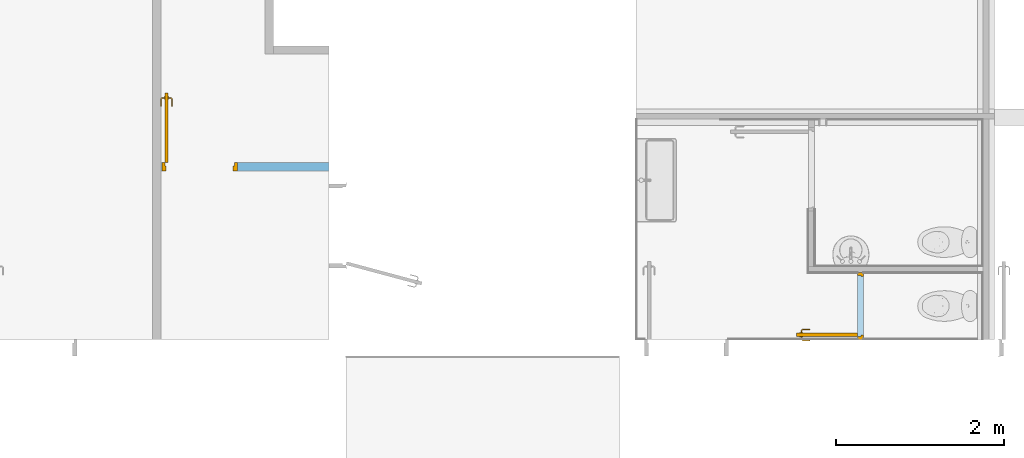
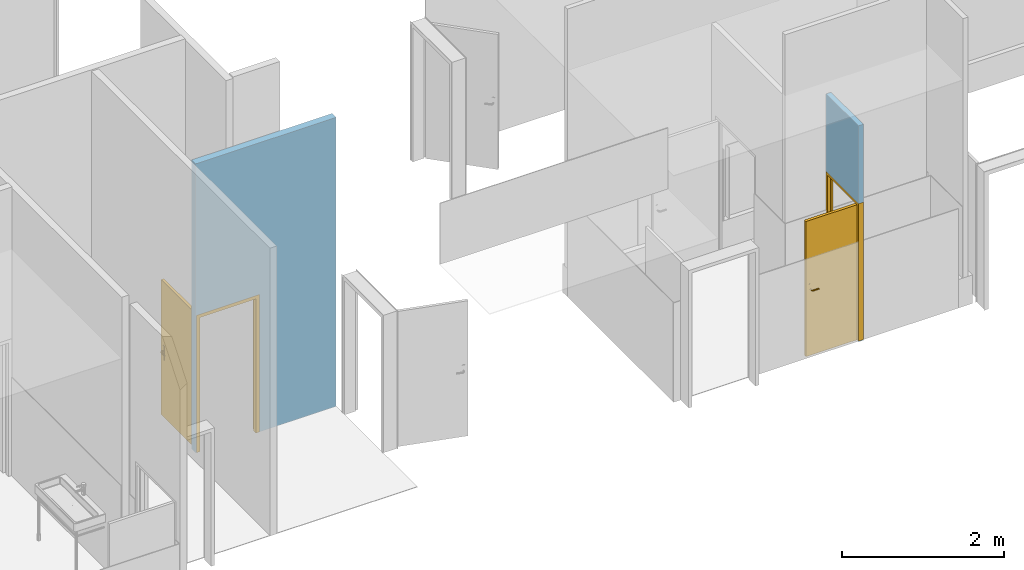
# One storey, part 9 of 18: 2 doors, 2 openings, plus 2 elements that do not belong to this part.
"""IFC2X3 building model written with IfcOpenShell, lengths in metres."""

from ifc_helpers import new_model, entity, si_unit, converted_unit, derived_unit, direction, frame, frame_2d, origin, place, context, subcontext, project, spatial, rectangle, extrude, faceted_brep, source, transform, mapped, material, material_list, layer, layer_set, layer_usage, type_object, type_shapes, element, fill, save


model = new_model("IFC2X3")

# Units and contexts
model_context = context("Model", 3, precision=1e-05, world=origin(), true_north=direction((6.12303176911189e-17, 1.0)))
body_context = subcontext(model_context, "Body", "Model", "MODEL_VIEW")
ifc_project = project(units=[si_unit("LENGTHUNIT", "METRE"), si_unit("AREAUNIT", "SQUARE_METRE"), si_unit("VOLUMEUNIT", "CUBIC_METRE"), converted_unit("PLANEANGLEUNIT", "DEGREE", entity("IfcRatioMeasure", 0.0174532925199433), si_unit("PLANEANGLEUNIT", "RADIAN"), dimensions=[0, 0, 0, 0, 0, 0, 0]), si_unit("MASSUNIT", "GRAM", prefix="KILO"), derived_unit("MASSDENSITYUNIT", [(si_unit("MASSUNIT", "GRAM", prefix="KILO"), 1), (si_unit("LENGTHUNIT", "METRE"), -3)]), si_unit("TIMEUNIT", "SECOND"), si_unit("FREQUENCYUNIT", "HERTZ"), si_unit("THERMODYNAMICTEMPERATUREUNIT", "DEGREE_CELSIUS"), derived_unit("THERMALTRANSMITTANCEUNIT", [(si_unit("MASSUNIT", "GRAM", prefix="KILO"), 1), (si_unit("THERMODYNAMICTEMPERATUREUNIT", "KELVIN"), -1), (si_unit("TIMEUNIT", "SECOND"), -3)]), derived_unit("VOLUMETRICFLOWRATEUNIT", [(si_unit("LENGTHUNIT", "METRE"), 3), (si_unit("TIMEUNIT", "SECOND"), -1)]), si_unit("ELECTRICCURRENTUNIT", "AMPERE"), si_unit("ELECTRICVOLTAGEUNIT", "VOLT"), si_unit("POWERUNIT", "WATT"), si_unit("FORCEUNIT", "NEWTON", prefix="KILO"), si_unit("ILLUMINANCEUNIT", "LUX"), si_unit("LUMINOUSFLUXUNIT", "LUMEN"), si_unit("LUMINOUSINTENSITYUNIT", "CANDELA"), derived_unit("USERDEFINED", [(si_unit("MASSUNIT", "GRAM", prefix="KILO"), -1), (si_unit("LENGTHUNIT", "METRE"), -2), (si_unit("TIMEUNIT", "SECOND"), 3), (si_unit("LUMINOUSFLUXUNIT", "LUMEN"), 1)]), derived_unit("LINEARVELOCITYUNIT", [(si_unit("LENGTHUNIT", "METRE"), 1), (si_unit("TIMEUNIT", "SECOND"), -1)]), si_unit("PRESSUREUNIT", "PASCAL"), derived_unit("USERDEFINED", [(si_unit("LENGTHUNIT", "METRE"), -2), (si_unit("MASSUNIT", "GRAM", prefix="KILO"), 1), (si_unit("TIMEUNIT", "SECOND"), -2)])], contexts=[model_context])

# Site, building, storey
site_placement = place(None, origin())
site = spatial("IfcSite", under=ifc_project, at=site_placement, Name="Surface", CompositionType="ELEMENT")
building_placement = place(site_placement, origin())
building = spatial("IfcBuilding", under=site, at=building_placement, Name="ExPREF", CompositionType="ELEMENT")
storey_placement = place(building_placement, frame((0.0, 0.0, -4.62)))
storey = spatial("IfcBuildingStorey", under=building, at=storey_placement, Name="R-1", CompositionType="ELEMENT", Elevation=-4.62)

# Wall, opening, door
ifc_material_1 = material(Name="AA-fermacell peint")
ifc_layer_1 = layer(ifc_material_1, 0.0125)
ifc_material_2 = material(Name="AA-isolant plancher")
ifc_layer_2 = layer(ifc_material_2, 0.045)
ifc_layer_3 = layer(ifc_material_1, 0.0125)
ifc_layer_set_1 = layer_set([ifc_layer_1, ifc_layer_2, ifc_layer_3], Name="Mur de base:Générique - Int. 70 mm")
ifc_layer_usage_1 = layer_usage(ifc_layer_set_1, "AXIS2", "POSITIVE", -0.035)
wall_type_1 = type_object("IfcWallType", Name="Mur de base:Générique - Int. 70 mm", PredefinedType="STANDARD", material=ifc_layer_set_1)
wall_1_placement = place(storey_placement, frame((47.9947438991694, -192.459651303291, -0.00999999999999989), z_axis=(0.0, 0.0, 1.0), x_axis=(0.0, -1.0, 0.0)))
wall_1 = element("IfcWallStandardCase", 1, at=wall_1_placement, inside=storey, type_object=wall_type_1, material=ifc_layer_usage_1, Name="Mur de base:Générique - Int. 70 mm", ObjectType="Mur de base:Générique - Int. 70 mm", context=body_context, shape_type="SweptSolid", body=[
    extrude(rectangle(XDim=0.800000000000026, YDim=0.0700000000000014, at=frame_2d((0.400000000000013, 0.0), x_axis=(-1.0, 0.0))), origin(), (0.0, 0.0, 1.0), 3.25999999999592),
])
opening_1_placement = place(wall_1_placement, frame((0.800000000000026, 0.035, 0.00999999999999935)))
opening_1 = element("IfcOpeningElement", 2, at=opening_1_placement, cuts=wall_1, Name="Porte intérieur bois:PP (0.73m x 2.04m):1", ObjectType="Opening", context=body_context, shape_type="SweptSolid", body=[
    extrude(rectangle(XDim=2.075, YDim=0.799999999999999, at=frame_2d((1.0375, 0.400000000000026), x_axis=(1.0, 0.0))), frame((0.0, 0.0, 0.0), z_axis=(0.0, -1.0, 0.0), x_axis=(0.0, 0.0, 1.0)), (0.0, 0.0, 1.0), 0.07),
])
ifc_material_3 = material(Name="AA-Blanc satiné")
door_style_1 = type_object("IfcDoorStyle", Name="PP (0.73m x 2.04m)", ConstructionType="NOTDEFINED", OperationType="SINGLE_SWING_LEFT", ParameterTakesPrecedence=False, Sizeable=False, material=ifc_material_3)
shared_shape_1 = source(origin(), body_context, "Body", "Brep", [
    faceted_brep([(0.719999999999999, -0.672025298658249, 1.00778044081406), (0.719999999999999, -0.676000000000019, 1.007), (0.719999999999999, -0.676000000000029, 0.992999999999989), (0.719999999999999, -0.672025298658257, 0.99221955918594), (0.719999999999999, -0.667974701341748, 0.992219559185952), (0.719999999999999, -0.663999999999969, 0.993000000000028), (0.719999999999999, -0.66399999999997, 1.007), (0.719999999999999, -0.667974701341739, 1.00778044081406), (0.697514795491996, -0.663999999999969, 0.993000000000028), (0.697514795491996, -0.663999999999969, 1.007), (0.695868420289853, -0.667974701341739, 1.00778044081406), (0.682054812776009, -0.654161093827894, 1.00778044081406), (0.6780042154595, -0.655838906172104, 1.00778044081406), (0.694190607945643, -0.672025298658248, 1.00778044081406), (0.692544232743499, -0.676000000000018, 1.007), (0.692544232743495, -0.676000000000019, 0.992999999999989), (0.694190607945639, -0.672025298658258, 0.99221955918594), (0.678004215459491, -0.655838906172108, 0.99221955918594), (0.682054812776, -0.654161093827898, 0.992219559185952), (0.695868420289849, -0.667974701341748, 0.992219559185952), (0.686029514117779, -0.652514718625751, 0.993000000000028), (0.686029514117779, -0.65251471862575, 1.007), (0.67402951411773, -0.657485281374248, 1.007), (0.674029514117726, -0.657485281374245, 0.992999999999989), (0.686029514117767, -0.569954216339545, 0.993000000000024), (0.682054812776, -0.569954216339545, 0.992219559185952), (0.678004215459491, -0.569954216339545, 0.99221955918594), (0.674029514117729, -0.569954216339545, 0.992999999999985), (0.67402951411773, -0.569954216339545, 1.007), (0.678004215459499, -0.569954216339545, 1.00778044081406), (0.682054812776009, -0.569954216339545, 1.00778044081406), (0.686029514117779, -0.569954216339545, 1.007), (0.686029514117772, -0.611234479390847, 0.993000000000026), (0.686029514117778, -0.611234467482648, 1.007), (0.680029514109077, -0.612057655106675, 1.0078786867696), (0.67402951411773, -0.61755479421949, 1.007), (0.674029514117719, -0.6175547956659, 0.992999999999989), (0.680029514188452, -0.612057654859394, 0.992121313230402)], [[[0, 1, 2, 3, 4, 5, 6, 7]], [[6, 5, 8, 9]], [[9, 10, 7, 6]], [[10, 11, 12, 13, 0, 7]], [[13, 14, 1, 0]], [[2, 1, 14, 15]], [[15, 16, 3, 2]], [[16, 17, 18, 19, 4, 3]], [[19, 8, 5, 4]], [[9, 8, 20, 21]], [[21, 11, 10, 9]], [[12, 22, 14, 13]], [[15, 14, 22, 23]], [[23, 17, 16, 15]], [[18, 20, 8, 19]], [[24, 25, 26, 27, 28, 29, 30, 31]], [[21, 20, 32, 24, 31, 33]], [[33, 30, 34]], [[35, 34, 29]], [[21, 33, 11]], [[33, 31, 30]], [[28, 35, 29]], [[22, 12, 35]], [[35, 12, 34]], [[12, 11, 34]], [[11, 33, 34]], [[29, 34, 30]], [[22, 35, 28, 27, 36, 23]], [[36, 26, 37]], [[27, 26, 36]], [[17, 23, 36]], [[37, 32, 18]], [[20, 18, 32]], [[32, 25, 24]], [[26, 25, 37]], [[25, 32, 37]], [[17, 36, 37]], [[17, 37, 18]]]),
    faceted_brep([(0.769999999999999, -0.672025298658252, 1.00778044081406), (0.769999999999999, -0.667974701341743, 1.00778044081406), (0.769999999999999, -0.663999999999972, 1.00699999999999), (0.769999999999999, -0.663999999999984, 0.993000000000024), (0.769999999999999, -0.667974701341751, 0.992219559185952), (0.769999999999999, -0.67202529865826, 0.99221955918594), (0.769999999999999, -0.676000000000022, 0.992999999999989), (0.769999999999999, -0.676000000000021, 1.007), (0.797650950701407, -0.676000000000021, 1.007), (0.796004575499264, -0.672025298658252, 1.00778044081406), (0.812053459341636, -0.655976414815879, 1.00778044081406), (0.808002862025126, -0.654298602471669, 1.00778044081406), (0.794326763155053, -0.667974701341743, 1.00778044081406), (0.792680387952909, -0.663999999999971, 1.007), (0.792680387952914, -0.663999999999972, 0.993000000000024), (0.794326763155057, -0.667974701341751, 0.992219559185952), (0.808002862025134, -0.654298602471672, 0.992219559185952), (0.812053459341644, -0.655976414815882, 0.99221955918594), (0.796004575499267, -0.67202529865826, 0.99221955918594), (0.797650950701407, -0.676000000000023, 0.992999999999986), (0.816028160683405, -0.657622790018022, 1.007), (0.804028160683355, -0.652652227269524, 1.007), (0.804028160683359, -0.652652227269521, 0.993000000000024), (0.816028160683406, -0.657622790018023, 0.992999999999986), (0.816028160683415, -0.569981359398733, 0.992999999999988), (0.812053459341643, -0.569981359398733, 0.99221955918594), (0.808002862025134, -0.569981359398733, 0.992219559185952), (0.804028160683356, -0.569981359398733, 0.993000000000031), (0.804028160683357, -0.569981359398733, 1.007), (0.808002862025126, -0.569981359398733, 1.00778044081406), (0.812053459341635, -0.569981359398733, 1.00778044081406), (0.816028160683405, -0.569981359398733, 1.00699999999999), (0.816028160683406, -0.617692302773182, 1.007), (0.810028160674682, -0.612139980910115, 1.0078786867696), (0.804028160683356, -0.611316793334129, 1.007), (0.804028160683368, -0.611316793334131, 0.993000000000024), (0.810028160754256, -0.612139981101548, 0.992121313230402), (0.816028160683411, -0.617692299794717, 0.992999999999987)], [[[0, 1, 2, 3, 4, 5, 6, 7]], [[8, 9, 0, 7]], [[9, 10, 11, 12, 1, 0]], [[12, 13, 2, 1]], [[3, 2, 13, 14]], [[14, 15, 4, 3]], [[15, 16, 17, 18, 5, 4]], [[18, 19, 6, 5]], [[7, 6, 19, 8]], [[20, 10, 9, 8]], [[11, 21, 13, 12]], [[14, 13, 21, 22]], [[22, 16, 15, 14]], [[17, 23, 19, 18]], [[8, 19, 23, 20]], [[24, 25, 26, 27, 28, 29, 30, 31]], [[32, 30, 33]], [[31, 30, 32]], [[10, 20, 32]], [[33, 34, 11]], [[21, 11, 34]], [[34, 29, 28]], [[30, 29, 33]], [[29, 34, 33]], [[10, 32, 33]], [[10, 33, 11]], [[22, 21, 34, 28, 27, 35]], [[35, 26, 36]], [[37, 36, 25]], [[22, 35, 16]], [[35, 27, 26]], [[24, 37, 25]], [[23, 17, 37]], [[37, 17, 36]], [[17, 16, 36]], [[16, 35, 36]], [[25, 36, 26]], [[20, 23, 37, 24, 31, 32]]]),
    faceted_brep([(0.725, -0.659647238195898, 0.866003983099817), (0.725, -0.649999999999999, 0.870000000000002), (0.725, -0.650000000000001, 1.08), (0.725, -0.6596472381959, 1.08399601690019), (0.725, -0.67, 1.08535898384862), (0.725, -0.680352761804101, 1.08399601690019), (0.725, -0.69, 1.08), (0.725, -0.689999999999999, 0.870000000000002), (0.725, -0.6803527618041, 0.866003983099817), (0.725, -0.669999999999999, 0.86464101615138), (0.72, -0.6596472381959, 1.08399601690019), (0.72, -0.650000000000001, 1.08), (0.72, -0.649999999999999, 0.870000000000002), (0.72, -0.659647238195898, 0.866003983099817), (0.72, -0.669999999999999, 0.86464101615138), (0.72, -0.6803527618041, 0.866003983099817), (0.72, -0.69, 0.870000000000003), (0.72, -0.69, 1.08), (0.72, -0.680352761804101, 1.08399601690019), (0.72, -0.67, 1.08535898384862)], [[[0, 1, 2, 3, 4, 5, 6, 7, 8, 9]], [[10, 11, 12, 13, 14, 15, 16, 17, 18, 19]], [[11, 10, 3, 2]], [[3, 10, 19, 4]], [[19, 18, 5, 4]], [[18, 17, 6, 5]], [[7, 6, 17, 16]], [[16, 15, 8, 7]], [[8, 15, 14, 9]], [[14, 13, 0, 9]], [[13, 12, 1, 0]], [[2, 1, 12, 11]]]),
    faceted_brep([(0.77, -0.659647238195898, 0.866003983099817), (0.77, -0.649999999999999, 0.870000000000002), (0.77, -0.65, 1.08), (0.77, -0.659647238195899, 1.08399601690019), (0.77, -0.67, 1.08535898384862), (0.77, -0.680352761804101, 1.08399601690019), (0.77, -0.69, 1.08), (0.77, -0.689999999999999, 0.870000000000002), (0.77, -0.6803527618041, 0.866003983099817), (0.77, -0.669999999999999, 0.86464101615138), (0.765, -0.659647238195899, 1.08399601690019), (0.765, -0.650000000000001, 1.08), (0.765, -0.649999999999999, 0.870000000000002), (0.765, -0.659647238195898, 0.866003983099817), (0.765, -0.669999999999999, 0.86464101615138), (0.765, -0.6803527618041, 0.866003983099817), (0.765, -0.69, 0.870000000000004), (0.765, -0.69, 1.08), (0.765, -0.680352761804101, 1.08399601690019), (0.765, -0.67, 1.08535898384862)], [[[0, 1, 2, 3, 4, 5, 6, 7, 8, 9]], [[10, 11, 12, 13, 14, 15, 16, 17, 18, 19]], [[16, 15, 8, 7]], [[8, 15, 14, 9]], [[14, 13, 0, 9]], [[13, 12, 1, 0]], [[2, 1, 12, 11]], [[11, 10, 3, 2]], [[3, 10, 19, 4]], [[19, 18, 5, 4]], [[18, 17, 6, 5]], [[7, 6, 17, 16]]]),
    faceted_brep([(0.724999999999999, -0.73, 2.04), (0.725, 0.0, 2.04), (0.725, 0.0, 0.0), (0.724999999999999, -0.73, 0.0), (0.764999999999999, -0.73, 2.04), (0.764999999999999, -0.73, 0.0), (0.765, 0.0, 0.0), (0.765, 0.0, 2.04)], [[[0, 1, 2, 3]], [[4, 5, 6, 7]], [[1, 0, 4, 7]], [[2, 1, 7, 6]], [[3, 2, 6, 5]], [[0, 3, 5, 4]]]),
    faceted_brep([(0.0, 0.0, 0.0), (0.0, 0.0699999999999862, 0.0), (0.0500000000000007, 0.0699999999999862, 0.0), (0.0500000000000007, 0.04, 0.0), (0.0349999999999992, 0.04, 0.0), (0.0349999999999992, 0.0, 0.0), (0.0, 0.0, 2.07500000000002), (0.0, 0.0699999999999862, 2.07500000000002), (0.800000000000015, 0.0699999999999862, 2.07500000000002), (0.800000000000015, 0.0699999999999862, 0.0), (0.749999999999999, 0.0699999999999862, 0.0), (0.749999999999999, 0.0699999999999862, 2.025), (0.0500000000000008, 0.0699999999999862, 2.025), (0.0500000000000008, 0.04, 2.025), (0.749999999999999, 0.04, 2.025), (0.749999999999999, 0.04, 0.0), (0.765000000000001, 0.04, 0.0), (0.765000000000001, 0.04, 2.04), (0.0349999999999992, 0.04, 2.04), (0.0349999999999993, 0.0, 2.04), (0.765000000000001, 0.0, 2.04), (0.765000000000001, 0.0, 0.0), (0.800000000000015, 0.0, 0.0), (0.800000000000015, 0.0, 2.07500000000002)], [[[0, 1, 2, 3, 4, 5]], [[1, 0, 6, 7]], [[2, 1, 7, 8, 9, 10, 11, 12]], [[3, 2, 12, 13]], [[4, 3, 13, 14, 15, 16, 17, 18]], [[5, 4, 18, 19]], [[0, 5, 19, 20, 21, 22, 23, 6]], [[8, 23, 22, 9]], [[22, 21, 16, 15, 10, 9]], [[14, 11, 10, 15]], [[20, 17, 16, 21]], [[7, 6, 23, 8]], [[13, 12, 11, 14]], [[19, 18, 17, 20]]]),
])
type_shapes(door_style_1, [shared_shape_1])
door_1_placement = place(opening_1_placement, frame((-0.80000000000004, -0.0700000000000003, 0.0)))
door_1 = element("IfcDoor", 3, at=door_1_placement, inside=storey, type_object=door_style_1, material=ifc_material_3, Name="Porte intérieur bois:PP (0.73m x 2.04m)", ObjectType="PP (0.73m x 2.04m)", OverallHeight=2.075, OverallWidth=0.800000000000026, context=body_context, shape_type="MappedRepresentation", body=[
    mapped(shared_shape_1, transform((0.0, 0.0, 0.0), scale=1.0)),
])
fill(opening_1, door_1)

ifc_material_4 = material(Name="AA-parpaing")
ifc_layer_4 = layer(ifc_material_4, 0.1)
ifc_layer_set_2 = layer_set([ifc_layer_4], Name="Mur de base:A-mur parpaing 10")
ifc_layer_usage_2 = layer_usage(ifc_layer_set_2, "AXIS2", "NEGATIVE", 0.05)
wall_type_2 = type_object("IfcWallType", Name="Mur de base:A-mur parpaing 10", PredefinedType="STANDARD", material=ifc_layer_set_2)
wall_2_placement = place(storey_placement, frame((39.6547436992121, -191.199651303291, 0.0)))
wall_2 = element("IfcWallStandardCase", 4, at=wall_2_placement, inside=storey, type_object=wall_type_2, material=ifc_layer_usage_2, Name="Mur de base:A-mur parpaing 10", ObjectType="Mur de base:A-mur parpaing 10", context=body_context, shape_type="SweptSolid", body=[
    extrude(rectangle(XDim=2.00499999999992, YDim=0.0999999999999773, at=frame_2d((1.00249999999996, 0.0), x_axis=(-1.0, 0.0))), origin(), (0.0, 0.0, 1.0), 4.3649999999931),
])
opening_2_placement = place(wall_2_placement, frame((0.00999999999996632, -0.05, 0.0)))
opening_2 = element("IfcOpeningElement", 5, at=opening_2_placement, cuts=wall_2, Name="Porte intérieur bois:PP (0.83m x 2.04m):1", ObjectType="Opening", context=body_context, shape_type="SweptSolid", body=[
    extrude(rectangle(XDim=2.075, YDim=0.9, at=frame_2d((1.0375, 0.45), x_axis=(1.0, 0.0))), frame((0.0, 0.0, 0.0), z_axis=(0.0, 1.0, 0.0), x_axis=(0.0, 0.0, 1.0)), (0.0, 0.0, 1.0), 0.1),
])
ifc_material_5 = material(Name="AA-bois menuiseries")
ifc_material_list_1 = material_list([ifc_material_3, ifc_material_5])
ifc_material_list_2 = material_list([ifc_material_3, ifc_material_5])
door_style_2 = type_object("IfcDoorStyle", Name="PP (0.83m x 2.04m)", ConstructionType="NOTDEFINED", OperationType="SINGLE_SWING_LEFT", ParameterTakesPrecedence=False, Sizeable=False, material=ifc_material_list_2)
shared_shape_2 = source(origin(), body_context, "Body", "Brep", [
    faceted_brep([(0.819999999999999, -0.772025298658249, 1.00778044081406), (0.819999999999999, -0.776000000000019, 1.007), (0.819999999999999, -0.776000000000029, 0.992999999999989), (0.819999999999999, -0.772025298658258, 0.99221955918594), (0.819999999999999, -0.767974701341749, 0.992219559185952), (0.819999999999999, -0.76399999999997, 0.993000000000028), (0.819999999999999, -0.763999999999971, 1.007), (0.819999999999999, -0.76797470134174, 1.00778044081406), (0.797514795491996, -0.76399999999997, 0.993000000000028), (0.797514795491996, -0.76399999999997, 1.007), (0.795868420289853, -0.76797470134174, 1.00778044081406), (0.782054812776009, -0.754161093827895, 1.00778044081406), (0.7780042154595, -0.755838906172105, 1.00778044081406), (0.794190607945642, -0.772025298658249, 1.00778044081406), (0.792544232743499, -0.776000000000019, 1.007), (0.792544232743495, -0.776000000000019, 0.992999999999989), (0.794190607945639, -0.772025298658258, 0.99221955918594), (0.778004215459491, -0.755838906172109, 0.99221955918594), (0.782054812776, -0.754161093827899, 0.992219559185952), (0.795868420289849, -0.767974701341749, 0.992219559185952), (0.786029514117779, -0.752514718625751, 0.993000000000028), (0.786029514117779, -0.752514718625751, 1.007), (0.77402951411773, -0.757485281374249, 1.007), (0.774029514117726, -0.757485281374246, 0.992999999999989), (0.786029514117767, -0.669954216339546, 0.993000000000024), (0.782054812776, -0.669954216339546, 0.992219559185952), (0.778004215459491, -0.669954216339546, 0.99221955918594), (0.774029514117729, -0.669954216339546, 0.992999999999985), (0.77402951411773, -0.669954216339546, 1.007), (0.778004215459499, -0.669954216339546, 1.00778044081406), (0.782054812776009, -0.669954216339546, 1.00778044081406), (0.786029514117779, -0.669954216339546, 1.007), (0.786029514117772, -0.711234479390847, 0.993000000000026), (0.786029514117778, -0.711234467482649, 1.007), (0.780029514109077, -0.712057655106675, 1.0078786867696), (0.77402951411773, -0.717554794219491, 1.007), (0.774029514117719, -0.717554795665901, 0.992999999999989), (0.780029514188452, -0.712057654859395, 0.992121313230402)], [[[0, 1, 2, 3, 4, 5, 6, 7]], [[6, 5, 8, 9]], [[9, 10, 7, 6]], [[10, 11, 12, 13, 0, 7]], [[13, 14, 1, 0]], [[2, 1, 14, 15]], [[15, 16, 3, 2]], [[16, 17, 18, 19, 4, 3]], [[19, 8, 5, 4]], [[9, 8, 20, 21]], [[21, 11, 10, 9]], [[12, 22, 14, 13]], [[15, 14, 22, 23]], [[23, 17, 16, 15]], [[18, 20, 8, 19]], [[24, 25, 26, 27, 28, 29, 30, 31]], [[21, 20, 32, 24, 31, 33]], [[33, 30, 34]], [[35, 34, 29]], [[21, 33, 11]], [[33, 31, 30]], [[28, 35, 29]], [[22, 12, 35]], [[35, 12, 34]], [[12, 11, 34]], [[11, 33, 34]], [[29, 34, 30]], [[22, 35, 28, 27, 36, 23]], [[36, 26, 37]], [[27, 26, 36]], [[17, 23, 36]], [[37, 32, 18]], [[20, 18, 32]], [[32, 25, 24]], [[26, 25, 37]], [[25, 32, 37]], [[17, 36, 37]], [[17, 37, 18]]]),
    faceted_brep([(0.869999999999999, -0.772025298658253, 1.00778044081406), (0.869999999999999, -0.767974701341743, 1.00778044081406), (0.869999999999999, -0.763999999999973, 1.00699999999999), (0.869999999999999, -0.763999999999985, 0.993000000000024), (0.869999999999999, -0.767974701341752, 0.992219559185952), (0.869999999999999, -0.772025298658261, 0.99221955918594), (0.869999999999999, -0.776000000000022, 0.992999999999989), (0.869999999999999, -0.776000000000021, 1.007), (0.897650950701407, -0.776000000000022, 1.007), (0.896004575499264, -0.772025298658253, 1.00778044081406), (0.912053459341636, -0.75597641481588, 1.00778044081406), (0.908002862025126, -0.754298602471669, 1.00778044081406), (0.894326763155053, -0.767974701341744, 1.00778044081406), (0.892680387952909, -0.763999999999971, 1.007), (0.892680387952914, -0.763999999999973, 0.993000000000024), (0.894326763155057, -0.767974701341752, 0.992219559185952), (0.908002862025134, -0.754298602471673, 0.992219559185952), (0.912053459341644, -0.755976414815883, 0.99221955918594), (0.896004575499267, -0.772025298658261, 0.99221955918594), (0.897650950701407, -0.776000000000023, 0.992999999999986), (0.916028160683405, -0.757622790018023, 1.007), (0.904028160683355, -0.752652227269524, 1.007), (0.904028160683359, -0.752652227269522, 0.993000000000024), (0.916028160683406, -0.757622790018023, 0.992999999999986), (0.916028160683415, -0.669981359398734, 0.992999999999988), (0.912053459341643, -0.669981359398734, 0.99221955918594), (0.908002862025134, -0.669981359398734, 0.992219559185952), (0.904028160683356, -0.669981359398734, 0.993000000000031), (0.904028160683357, -0.669981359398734, 1.007), (0.908002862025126, -0.669981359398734, 1.00778044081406), (0.912053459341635, -0.669981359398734, 1.00778044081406), (0.916028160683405, -0.669981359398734, 1.00699999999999), (0.916028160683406, -0.717692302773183, 1.007), (0.910028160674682, -0.712139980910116, 1.0078786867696), (0.904028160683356, -0.71131679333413, 1.007), (0.904028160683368, -0.711316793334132, 0.993000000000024), (0.910028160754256, -0.712139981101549, 0.992121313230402), (0.916028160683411, -0.717692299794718, 0.992999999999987)], [[[0, 1, 2, 3, 4, 5, 6, 7]], [[8, 9, 0, 7]], [[9, 10, 11, 12, 1, 0]], [[12, 13, 2, 1]], [[3, 2, 13, 14]], [[14, 15, 4, 3]], [[15, 16, 17, 18, 5, 4]], [[18, 19, 6, 5]], [[7, 6, 19, 8]], [[20, 10, 9, 8]], [[11, 21, 13, 12]], [[14, 13, 21, 22]], [[22, 16, 15, 14]], [[17, 23, 19, 18]], [[8, 19, 23, 20]], [[24, 25, 26, 27, 28, 29, 30, 31]], [[32, 30, 33]], [[31, 30, 32]], [[10, 20, 32]], [[33, 34, 11]], [[21, 11, 34]], [[34, 29, 28]], [[30, 29, 33]], [[29, 34, 33]], [[10, 32, 33]], [[10, 33, 11]], [[22, 21, 34, 28, 27, 35]], [[35, 26, 36]], [[37, 36, 25]], [[22, 35, 16]], [[35, 27, 26]], [[24, 37, 25]], [[23, 17, 37]], [[37, 17, 36]], [[17, 16, 36]], [[16, 35, 36]], [[25, 36, 26]], [[20, 23, 37, 24, 31, 32]]]),
    faceted_brep([(0.825, -0.759647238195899, 0.866003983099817), (0.825, -0.75, 0.870000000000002), (0.825, -0.750000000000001, 1.08), (0.825, -0.7596472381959, 1.08399601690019), (0.825, -0.770000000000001, 1.08535898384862), (0.825, -0.780352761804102, 1.08399601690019), (0.825, -0.790000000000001, 1.08), (0.825, -0.789999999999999, 0.870000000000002), (0.825, -0.7803527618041, 0.866003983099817), (0.825, -0.77, 0.86464101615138), (0.82, -0.7596472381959, 1.08399601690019), (0.82, -0.750000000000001, 1.08), (0.82, -0.75, 0.870000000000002), (0.82, -0.759647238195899, 0.866003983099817), (0.82, -0.77, 0.86464101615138), (0.82, -0.7803527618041, 0.866003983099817), (0.82, -0.790000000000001, 0.870000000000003), (0.82, -0.790000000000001, 1.08), (0.82, -0.780352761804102, 1.08399601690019), (0.82, -0.770000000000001, 1.08535898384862)], [[[0, 1, 2, 3, 4, 5, 6, 7, 8, 9]], [[10, 11, 12, 13, 14, 15, 16, 17, 18, 19]], [[11, 10, 3, 2]], [[3, 10, 19, 4]], [[19, 18, 5, 4]], [[18, 17, 6, 5]], [[7, 6, 17, 16]], [[16, 15, 8, 7]], [[8, 15, 14, 9]], [[14, 13, 0, 9]], [[13, 12, 1, 0]], [[2, 1, 12, 11]]]),
    faceted_brep([(0.87, -0.759647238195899, 0.866003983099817), (0.87, -0.75, 0.870000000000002), (0.87, -0.750000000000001, 1.08), (0.87, -0.7596472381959, 1.08399601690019), (0.87, -0.770000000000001, 1.08535898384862), (0.87, -0.780352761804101, 1.08399601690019), (0.87, -0.79, 1.08), (0.87, -0.789999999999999, 0.870000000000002), (0.87, -0.7803527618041, 0.866003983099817), (0.87, -0.77, 0.86464101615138), (0.865, -0.7596472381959, 1.08399601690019), (0.865, -0.750000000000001, 1.08), (0.865, -0.75, 0.870000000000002), (0.865, -0.759647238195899, 0.866003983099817), (0.865, -0.77, 0.86464101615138), (0.865, -0.7803527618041, 0.866003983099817), (0.865, -0.790000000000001, 0.870000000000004), (0.865, -0.79, 1.08), (0.865, -0.780352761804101, 1.08399601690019), (0.865, -0.770000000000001, 1.08535898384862)], [[[0, 1, 2, 3, 4, 5, 6, 7, 8, 9]], [[10, 11, 12, 13, 14, 15, 16, 17, 18, 19]], [[16, 15, 8, 7]], [[8, 15, 14, 9]], [[14, 13, 0, 9]], [[13, 12, 1, 0]], [[2, 1, 12, 11]], [[11, 10, 3, 2]], [[3, 10, 19, 4]], [[19, 18, 5, 4]], [[18, 17, 6, 5]], [[7, 6, 17, 16]]]),
    faceted_brep([(0.824999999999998, -0.830000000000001, 2.04), (0.825, 0.0, 2.04), (0.825, 0.0, 0.0), (0.824999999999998, -0.830000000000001, 0.0), (0.864999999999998, -0.830000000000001, 2.04), (0.864999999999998, -0.830000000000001, 0.0), (0.865, 0.0, 0.0), (0.865, 0.0, 2.04)], [[[0, 1, 2, 3]], [[4, 5, 6, 7]], [[1, 0, 4, 7]], [[2, 1, 7, 6]], [[3, 2, 6, 5]], [[0, 3, 5, 4]]]),
    faceted_brep([(0.0, 0.0, 0.0), (0.0, 0.100000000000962, 0.0), (0.0499999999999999, 0.100000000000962, 0.0), (0.0499999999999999, 0.0400000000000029, 0.0), (0.0349999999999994, 0.0400000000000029, 0.0), (0.0349999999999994, 0.0, 0.0), (0.0, 0.0, 2.07500000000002), (0.0, 0.100000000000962, 2.07500000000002), (0.900000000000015, 0.100000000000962, 2.07500000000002), (0.900000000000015, 0.100000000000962, 0.0), (0.85, 0.100000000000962, 0.0), (0.85, 0.100000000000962, 2.025), (0.0500000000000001, 0.100000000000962, 2.025), (0.05, 0.0400000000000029, 2.025), (0.85, 0.0400000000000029, 2.025), (0.85, 0.0400000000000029, 0.0), (0.865, 0.0400000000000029, 0.0), (0.865, 0.0400000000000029, 2.04), (0.0349999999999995, 0.0400000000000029, 2.04), (0.0349999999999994, 0.0, 2.04), (0.865, 0.0, 2.04), (0.865, 0.0, 0.0), (0.900000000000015, 0.0, 0.0), (0.900000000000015, 0.0, 2.07500000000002)], [[[0, 1, 2, 3, 4, 5]], [[1, 0, 6, 7]], [[2, 1, 7, 8, 9, 10, 11, 12]], [[3, 2, 12, 13]], [[4, 3, 13, 14, 15, 16, 17, 18]], [[5, 4, 18, 19]], [[0, 5, 19, 20, 21, 22, 23, 6]], [[8, 23, 22, 9]], [[22, 21, 16, 15, 10, 9]], [[14, 11, 10, 15]], [[20, 17, 16, 21]], [[7, 6, 23, 8]], [[13, 12, 11, 14]], [[19, 18, 17, 20]]]),
])
type_shapes(door_style_2, [shared_shape_2])
door_2_placement = place(opening_2_placement, frame((0.899999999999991, 0.0999999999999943, 0.0), z_axis=(0.0, 0.0, 1.0), x_axis=(-1.0, 0.0, 0.0)))
door_2 = element("IfcDoor", 6, at=door_2_placement, inside=storey, type_object=door_style_2, material=ifc_material_list_1, Name="Porte intérieur bois:PP (0.83m x 2.04m)", ObjectType="PP (0.83m x 2.04m)", OverallHeight=2.075, OverallWidth=0.900000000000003, context=body_context, shape_type="MappedRepresentation", body=[
    mapped(shared_shape_2, transform((0.0, 0.0, 0.0), scale=1.0)),
])
fill(opening_2, door_2)

save(model, "model.ifc")
